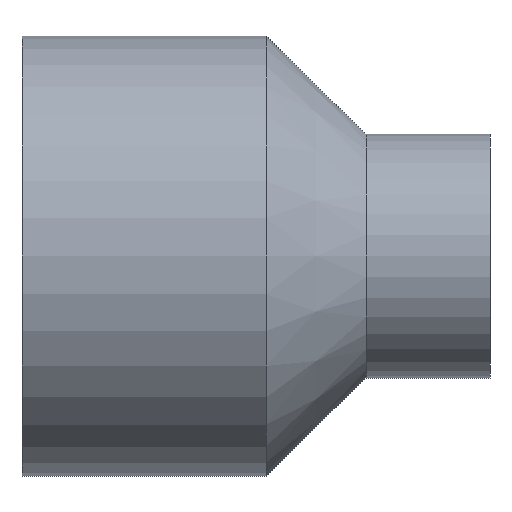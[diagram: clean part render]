
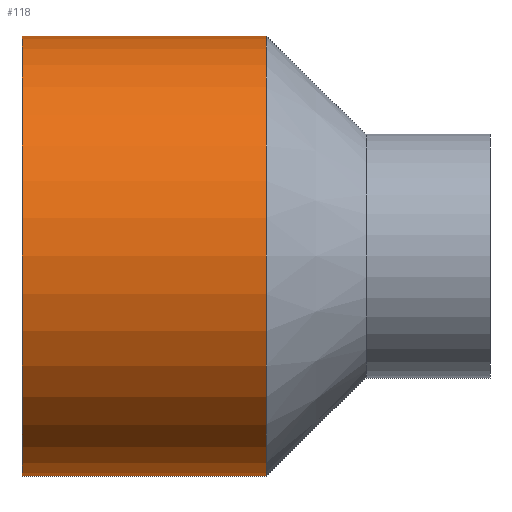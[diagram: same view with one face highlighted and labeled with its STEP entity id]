
A CAD part, front view. The second image highlights one B-rep face of the part: STEP entity #118.
In plain terms, the highlighted cylindrical face has radius 55 mm (diameter 110 mm), a full revolution.
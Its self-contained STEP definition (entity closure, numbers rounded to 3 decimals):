
#18=CYLINDRICAL_SURFACE('',#134,55.);
#25=FACE_BOUND('',#49,.T.);
#35=FACE_OUTER_BOUND('',#48,.T.);
#48=EDGE_LOOP('',(#98));
#49=EDGE_LOOP('',(#99));
#65=CIRCLE('',#133,55.);
#66=CIRCLE('',#135,55.);
#75=VERTEX_POINT('',#199);
#76=VERTEX_POINT('',#202);
#85=EDGE_CURVE('',#75,#75,#65,.T.);
#86=EDGE_CURVE('',#76,#76,#66,.T.);
#98=ORIENTED_EDGE('',*,*,#85,.T.);
#99=ORIENTED_EDGE('',*,*,#86,.F.);
#118=ADVANCED_FACE('',(#35,#25),#18,.T.);
#133=AXIS2_PLACEMENT_3D('',#200,#161,#162);
#134=AXIS2_PLACEMENT_3D('',#201,#163,#164);
#135=AXIS2_PLACEMENT_3D('',#203,#165,#166);
#161=DIRECTION('center_axis',(-1.,0.,0.));
#162=DIRECTION('ref_axis',(0.,0.,1.));
#163=DIRECTION('center_axis',(-1.,0.,0.));
#164=DIRECTION('ref_axis',(0.,-1.,0.));
#165=DIRECTION('center_axis',(-1.,0.,0.));
#166=DIRECTION('ref_axis',(0.,0.,1.));
#199=CARTESIAN_POINT('',(2.5,-55.,0.));
#200=CARTESIAN_POINT('Origin',(2.5,0.,0.));
#201=CARTESIAN_POINT('Origin',(-28.,0.,0.));
#202=CARTESIAN_POINT('',(-58.5,-55.,0.));
#203=CARTESIAN_POINT('Origin',(-58.5,0.,0.));
